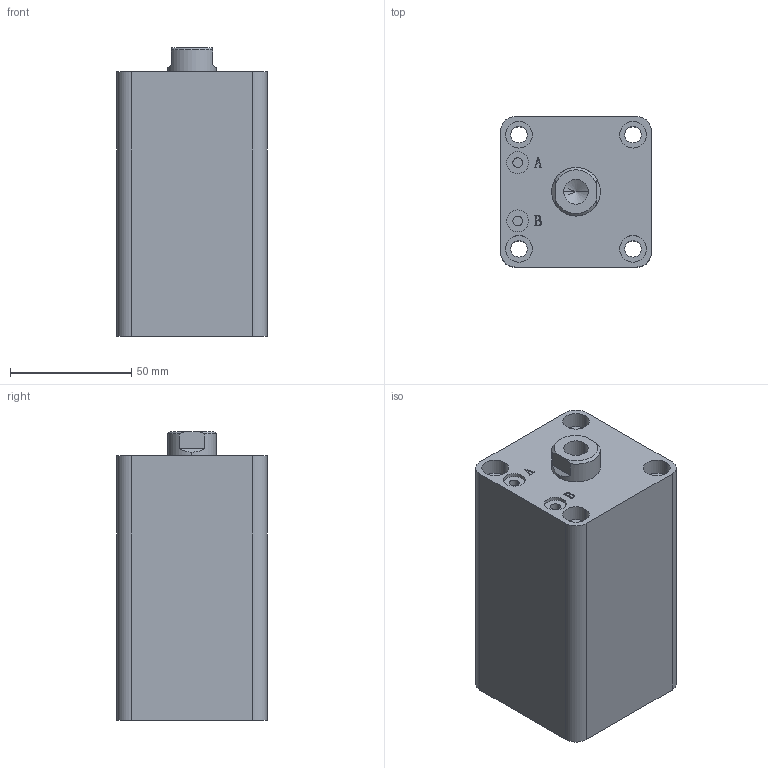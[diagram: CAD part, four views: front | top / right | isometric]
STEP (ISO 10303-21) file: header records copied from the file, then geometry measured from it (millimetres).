
FILE_DESCRIPTION (( 'STEP AP203' ), '1' );
FILE_NAME ('HTB-SDMA32-55N.STEP', '2019-10-07T11:41:54', ( '微软用户' ), ( '微软中国' ), 'SwSTEP 2.0', 'SolidWorks 2012', '' );
FILE_SCHEMA (( 'CONFIG_CONTROL_DESIGN' ));
Length unit declared in the file: millimetre
Products named in the file (3): HTB-SDMA32-55N; HTB-SDMA32-55N活塞杆; HTB-SDMA32-55掛极
Assembly tree (2 placements, depth 2):
  HTB-SDMA32-55N
    HTB-SDMA32-55掛极
    HTB-SDMA32-55N活塞杆
Bounding box: 62 x 62 x 119 mm (x, y, z)
Volume: 370795.2 mm3; surface area: 63199.8 mm2
Topology: 2 solids, 2 shells, 137 faces, 331 edges, 217 vertices
Faces by surface type: plane 65, cylinder 46, bspline 16, torus 6, cone 4
Entity records: 5070 total; most frequent: CARTESIAN_POINT 1576, ORIENTED_EDGE 658, DIRECTION 647, EDGE_CURVE 329, AXIS2_PLACEMENT_3D 232, VERTEX_POINT 217, LINE 183, VECTOR 183
